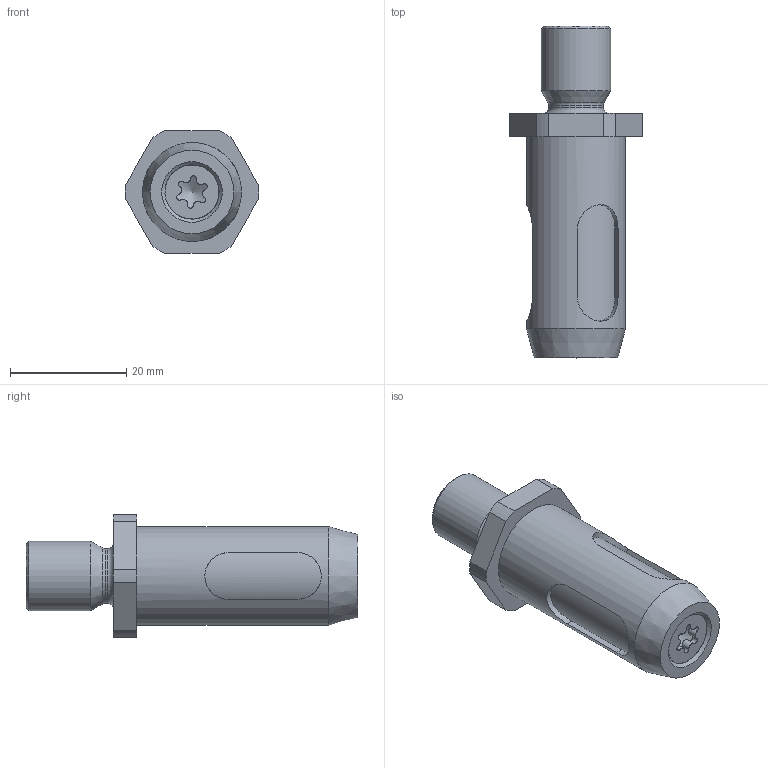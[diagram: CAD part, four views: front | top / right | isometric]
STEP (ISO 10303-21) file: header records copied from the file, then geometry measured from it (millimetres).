
FILE_DESCRIPTION(/* description */ (''),/* implementation_level */ '2;1');
FILE_NAME(/* name */ '\\dc01\daten\CAD\Standard\Daten\3D-Datenbank\GI\GIS\4 - 3D-CAD-Daten GIS 004-020\G-GIS017\G-GIS017_Rev.1.02.stp',/* time_stamp */ '2022-11-29T16:00:37+01:00',/* author */ ('ysplieth'),/* organization */ (''),/* preprocessor_version */ 'ST-DEVELOPER v17',/* originating_system */ 'Autodesk Inventor 2018',/* authorisation */ '');
FILE_SCHEMA (('AUTOMOTIVE_DESIGN { 1 0 10303 214 3 1 1 }'));
Length unit declared in the file: millimetre
Products named in the file (1): Bauteil13
Bounding box: 22.99 x 57 x 21 mm (x, y, z)
Volume: 10119.8 mm3; surface area: 7120.1 mm2
Topology: 1 solids, 4 shells, 78 faces, 216 edges, 149 vertices
Faces by surface type: cylinder 41, plane 23, cone 11, torus 3
Full cylindrical faces by diameter (mm): 4 x2, 4.134 x2, 5 x1, 5.5 x1, 9.3 x1, 9.4 x1, 12 x1, 12.8 x1, 13 x1, 15 x2, 17 x1
Entity records: 3186 total; most frequent: CARTESIAN_POINT 1038, ORIENTED_EDGE 426, DIRECTION 422, EDGE_CURVE 213, AXIS2_PLACEMENT_3D 167, VERTEX_POINT 149, EDGE_LOOP 92, LINE 88
